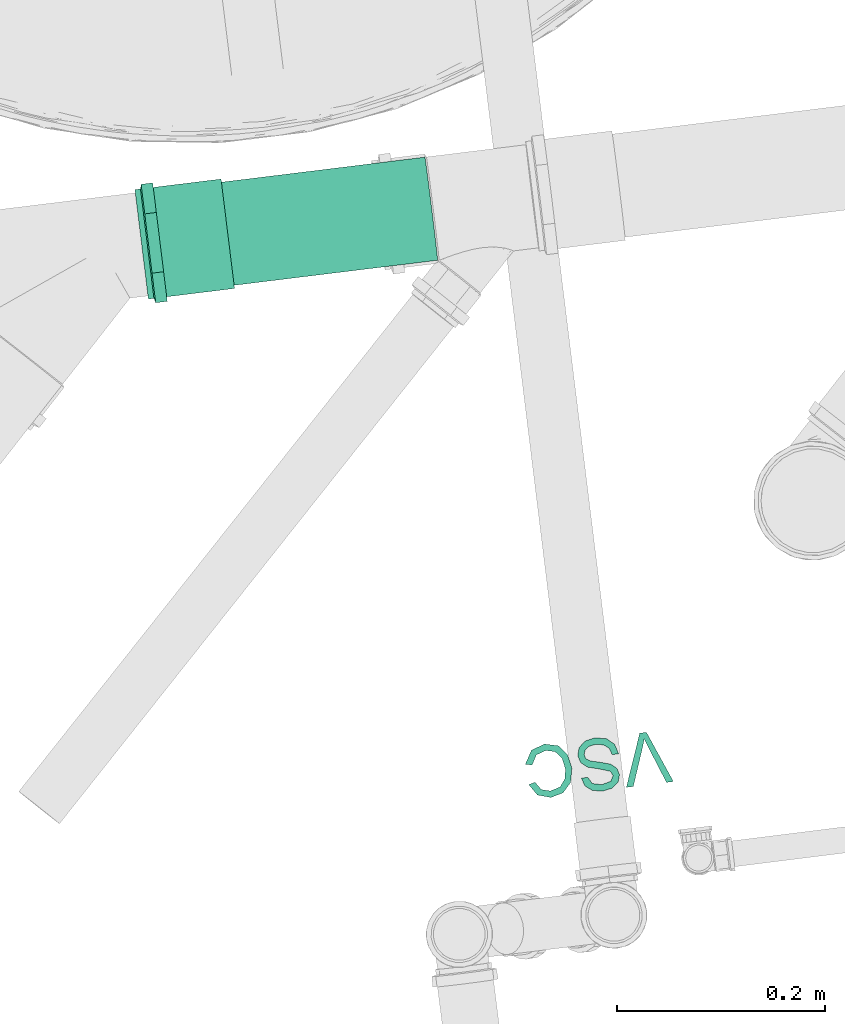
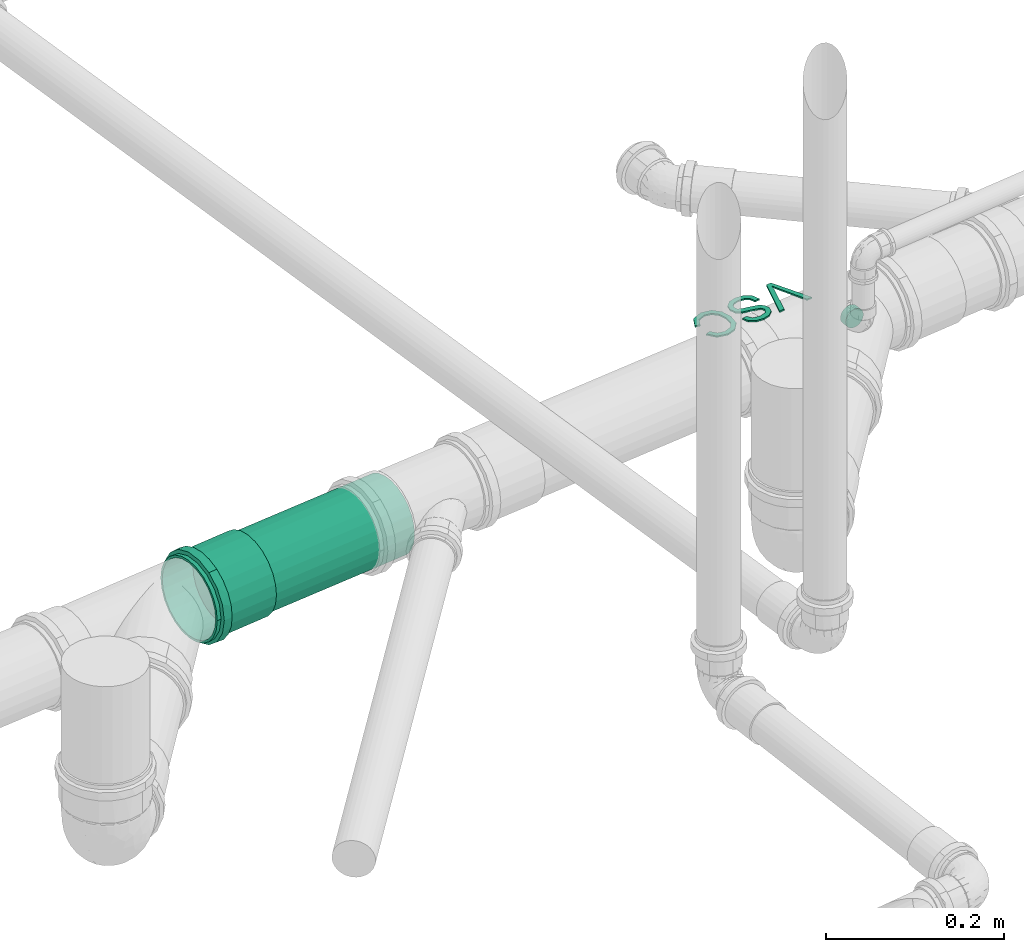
# One storey, part 20 of 97: 1 flow fitting, 1 flow segment, 1 flow terminal.
"""IFC2X3 building model written with IfcOpenShell, lengths in centimetres."""

from ifc_helpers import new_model, entity, si_unit, converted_unit, derived_unit, direction, frame, frame_2d, origin, place, context, subcontext, project, spatial, polyline, circle, outline, extrude, faceted_brep, source, transform, mapped, material, material_list, type_object, type_shapes, element, save


model = new_model("IFC2X3")

# Units and contexts
model_context = context("Model", 3, precision=0.001, world=origin(), true_north=direction((6.12303176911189e-17, 1.0)))
body_context = subcontext(model_context, "Body", "Model", "MODEL_VIEW")
ifc_project = project(units=[si_unit("LENGTHUNIT", "METRE", prefix="CENTI"), si_unit("AREAUNIT", "SQUARE_METRE"), si_unit("VOLUMEUNIT", "CUBIC_METRE"), converted_unit("PLANEANGLEUNIT", "DEGREE", entity("IfcRatioMeasure", 0.0174532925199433), si_unit("PLANEANGLEUNIT", "RADIAN"), dimensions=[0, 0, 0, 0, 0, 0, 0]), si_unit("MASSUNIT", "GRAM", prefix="KILO"), derived_unit("MASSDENSITYUNIT", [(si_unit("MASSUNIT", "GRAM", prefix="KILO"), 1), (si_unit("LENGTHUNIT", "METRE"), -3)]), derived_unit("MOMENTOFINERTIAUNIT", [(si_unit("LENGTHUNIT", "METRE"), 4)]), si_unit("TIMEUNIT", "SECOND"), si_unit("FREQUENCYUNIT", "HERTZ"), si_unit("THERMODYNAMICTEMPERATUREUNIT", "DEGREE_CELSIUS"), derived_unit("THERMALTRANSMITTANCEUNIT", [(si_unit("MASSUNIT", "GRAM", prefix="KILO"), 1), (si_unit("THERMODYNAMICTEMPERATUREUNIT", "KELVIN"), -1), (si_unit("TIMEUNIT", "SECOND"), -3)]), derived_unit("VOLUMETRICFLOWRATEUNIT", [(si_unit("LENGTHUNIT", "METRE"), 3), (si_unit("TIMEUNIT", "SECOND"), -1)]), si_unit("ELECTRICCURRENTUNIT", "AMPERE"), si_unit("ELECTRICVOLTAGEUNIT", "VOLT"), si_unit("POWERUNIT", "WATT"), si_unit("FORCEUNIT", "NEWTON", prefix="KILO"), si_unit("ILLUMINANCEUNIT", "LUX"), si_unit("LUMINOUSFLUXUNIT", "LUMEN"), si_unit("LUMINOUSINTENSITYUNIT", "CANDELA"), derived_unit("USERDEFINED", [(si_unit("MASSUNIT", "GRAM", prefix="KILO"), -1), (si_unit("LENGTHUNIT", "METRE"), -2), (si_unit("TIMEUNIT", "SECOND"), 3), (si_unit("LUMINOUSFLUXUNIT", "LUMEN"), 1)]), derived_unit("LINEARVELOCITYUNIT", [(si_unit("LENGTHUNIT", "METRE"), 1), (si_unit("TIMEUNIT", "SECOND"), -1)]), si_unit("PRESSUREUNIT", "PASCAL"), derived_unit("USERDEFINED", [(si_unit("LENGTHUNIT", "METRE"), -2), (si_unit("MASSUNIT", "GRAM", prefix="KILO"), 1), (si_unit("TIMEUNIT", "SECOND"), -2)]), derived_unit("LINEARFORCEUNIT", [(si_unit("MASSUNIT", "GRAM", prefix="KILO"), 1), (si_unit("LENGTHUNIT", "METRE"), 1), (si_unit("TIMEUNIT", "SECOND"), -2), (si_unit("LENGTHUNIT", "METRE"), -1)]), derived_unit("PLANARFORCEUNIT", [(si_unit("MASSUNIT", "GRAM", prefix="KILO"), 1), (si_unit("LENGTHUNIT", "METRE"), 1), (si_unit("TIMEUNIT", "SECOND"), -2), (si_unit("LENGTHUNIT", "METRE"), -2)])], contexts=[model_context])

# Site, building, storey
site_placement = place(None, origin())
site = spatial("IfcSite", under=ifc_project, at=site_placement, Name="Default", CompositionType="ELEMENT")
building_placement = place(site_placement, origin())
building = spatial("IfcBuilding", under=site, at=building_placement, Name="HIDROSSANITÁRIO", CompositionType="ELEMENT")
storey_placement = place(building_placement, frame((0.0, 0.0, -260.0)))
storey = spatial("IfcBuildingStorey", under=building, at=storey_placement, Name="TÉRREO-HID", CompositionType="ELEMENT", Elevation=-260.0)

# Flow segment
pipe_segment_type = type_object("IfcPipeSegmentType", Name="Tipos de tubos:Tubo - Esgoto - Série Normal", PredefinedType="NOTDEFINED")
flow_segment_placement = place(storey_placement, origin())
element("IfcFlowSegment", 1, at=flow_segment_placement, inside=storey, type_object=pipe_segment_type, Name="Tipos de tubos:Tubo - Esgoto - Série Normal", ObjectType="Tipos de tubos:Tubo - Esgoto - Série Normal", context=body_context, shape_type="SweptSolid", body=[
    extrude(circle(Radius=5.0, at=frame_2d((-2.64549693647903e-14, -1.8606547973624e-15), x_axis=(1.0, 0.0))), frame((-1631.92510677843, 2970.05791379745, -34.9773285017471), z_axis=(-0.992474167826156, -0.122147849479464, 0.00865615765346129), x_axis=(-0.122152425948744, 0.992511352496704, 0.0)), (0.0, 0.0, 1.0), 23.7615780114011),
])

# Flow fitting
ifc_material_1 = material(Name="PVC Branco")
pipe_fitting_type = type_object("IfcPipeFittingType", Name="Luva Simples para Conexão - Serie Normal - Esgoto - MEP - Tigre:Standard", PredefinedType="NOTDEFINED", material=ifc_material_1)
shared_shape_1 = source(origin(), body_context, "Body", "Brep", [
    faceted_brep([(1.77700000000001, 2.8725, -4.9753159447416), (1.77700000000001, 4.06232845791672, -4.06232845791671), (1.77700000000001, 2.65249999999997, -4.59426476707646), (1.77700000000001, 1.37303503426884, -5.12423650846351), (1.77700000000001, 1.48691541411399, -5.5492438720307), (1.77700000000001, 3.75120147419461, -3.75120147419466), (1.77700000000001, 4.9753159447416, -2.8725), (1.77700000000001, 4.59426476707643, -2.65250000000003), (1.77700000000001, 5.1242365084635, -1.37303503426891), (1.77700000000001, 5.5492438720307, -1.48691541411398), (1.77700000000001, 5.305, 0.0), (1.77700000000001, 5.745, 0.0), (1.77700000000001, 5.1242365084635, 1.3730350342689), (1.77700000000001, 5.54924387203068, 1.48691541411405), (1.77700000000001, 4.59426476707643, 2.65250000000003), (1.77700000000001, 4.97531594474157, 2.87250000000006), (1.77700000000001, 3.75120147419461, 3.75120147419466), (1.77700000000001, 4.06232845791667, 4.06232845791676), (1.77700000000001, 2.65249999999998, 4.59426476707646), (1.77700000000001, 2.87249999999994, 4.97531594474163), (1.77700000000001, 1.37303503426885, 5.12423650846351), (1.77700000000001, 1.48691541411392, 5.54924387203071), (1.77700000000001, 0.0, 5.305), (1.77700000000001, 0.0, 5.745), (1.77700000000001, -1.37303503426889, 5.1242365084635), (1.77700000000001, -1.48691541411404, 5.54924387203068), (1.77700000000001, -2.65250000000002, 4.59426476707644), (1.77700000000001, -2.87250000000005, 4.97531594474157), (1.77700000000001, -3.75120147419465, 3.75120147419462), (1.77700000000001, -4.06232845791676, 4.06232845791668), (1.77700000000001, -4.59426476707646, 2.65249999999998), (1.77700000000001, -4.97531594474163, 2.87249999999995), (1.77700000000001, -5.54924387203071, 1.48691541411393), (1.77700000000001, -5.12423650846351, 1.37303503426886), (1.77700000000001, -5.745, 0.0), (1.77700000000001, -5.305, 0.0), (1.77700000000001, -5.54924387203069, -1.486915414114), (1.77700000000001, -5.12423650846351, -1.37303503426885), (1.77700000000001, -4.97531594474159, -2.87250000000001), (1.77700000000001, -4.59426476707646, -2.65249999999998), (1.77700000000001, -4.06232845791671, -4.06232845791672), (1.77700000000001, -3.75120147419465, -3.75120147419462), (1.77700000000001, -2.87249999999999, -4.97531594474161), (1.77700000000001, -2.65250000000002, -4.59426476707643), (1.77700000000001, -1.48691541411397, -5.5492438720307), (1.77700000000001, -1.3730350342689, -5.1242365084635), (1.77700000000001, 0.0, -5.745), (1.77700000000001, 0.0, -5.305), (0.657000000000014, -1.93463887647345, 5.31665771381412), (0.657000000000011, -4.4007619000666, 3.69300957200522), (0.657000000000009, -4.89962626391, 2.82901737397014), (0.657000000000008, -5.39849062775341, 1.96502517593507), (0.657000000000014, -2.87216972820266, 4.97550661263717), (0.657000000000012, -3.63646581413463, 4.3342580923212), (0.657000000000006, -5.5717453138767, 0.982512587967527), (0.657000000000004, -5.745, 0.0), (0.657000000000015, -0.997108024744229, 5.65780881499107), (0.657000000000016, 0.998234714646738, 5.65761013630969), (0.657000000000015, 0.0005633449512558, 5.65770947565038), (0.657000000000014, 3.63732887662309, 4.33353383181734), (0.657000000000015, 1.93569761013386, 5.31627233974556), (0.657000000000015, 2.87316050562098, 4.97493454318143), (0.65700000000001, 5.39888184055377, 1.96395006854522), (0.657000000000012, 4.90018954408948, 2.82804159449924), (0.657000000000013, 4.40149724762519, 3.69213312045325), (0.657000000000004, 5.745, 0.0), (0.656999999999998, 4.40149724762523, -3.6921331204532), (0.657, 4.90018954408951, -2.82804159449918), (0.657000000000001, 5.39888184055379, -1.96395006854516), (0.656999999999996, 2.87316050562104, -4.9749345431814), (0.656999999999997, 3.63732887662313, -4.3335338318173), (0.656999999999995, 1.93569761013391, -5.31627233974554), (0.656999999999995, 0.998234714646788, -5.65761013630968), (0.656999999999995, -0.997108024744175, -5.65780881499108), (0.656999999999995, 0.000563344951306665, -5.65770947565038), (0.656999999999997, -3.6364658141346, -4.33425809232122), (0.656999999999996, -2.87216972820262, -4.9755066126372), (0.656999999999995, -1.9346388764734, -5.31665771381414), (0.657000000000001, -5.39849062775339, -1.96502517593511), (0.657, -4.89962626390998, -2.82901737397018), (0.656999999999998, -4.40076190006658, -3.69300957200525), (0.657000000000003, -5.5717453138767, -0.982512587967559), (8.35200000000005, 2.6525, -4.59426476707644), (8.35200000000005, 3.75120147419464, -3.75120147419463), (8.35200000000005, 2.49999999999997, -4.33012701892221), (8.35200000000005, 1.29409522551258, -4.82962913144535), (8.35200000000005, 1.37303503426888, -5.1242365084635), (8.35200000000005, 3.53553390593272, -3.53553390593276), (8.35200000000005, 4.59426476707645, -2.6525), (8.35200000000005, 4.33012701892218, -2.50000000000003), (8.35200000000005, 4.82962913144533, -1.29409522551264), (8.35200000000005, 5.12423650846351, -1.37303503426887), (8.35200000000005, 5.0, 0.0), (8.35200000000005, 5.305, 0.0), (8.35200000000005, 4.82962913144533, 1.29409522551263), (8.35200000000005, 5.12423650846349, 1.37303503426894), (8.35200000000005, 4.33012701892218, 2.50000000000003), (8.35200000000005, 4.59426476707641, 2.65250000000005), (8.35200000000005, 3.53553390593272, 3.53553390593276), (8.35200000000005, 3.75120147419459, 3.75120147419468), (8.35200000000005, 2.49999999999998, 4.33012701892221), (8.35200000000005, 2.65249999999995, 4.59426476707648), (8.35200000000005, 1.29409522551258, 4.82962913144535), (8.35200000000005, 1.37303503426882, 5.12423650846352), (8.35200000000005, 0.0, 5.0), (8.35200000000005, 0.0, 5.305), (8.35200000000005, -1.29409522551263, 4.82962913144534), (8.35200000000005, -1.37303503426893, 5.12423650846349), (8.35200000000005, -2.50000000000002, 4.33012701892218), (8.35200000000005, -2.65250000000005, 4.59426476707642), (8.35200000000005, -3.53553390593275, 3.53553390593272), (8.35200000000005, -3.75120147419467, 3.7512014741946), (8.35200000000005, -4.3301270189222, 2.49999999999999), (8.35200000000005, -4.59426476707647, 2.65249999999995), (8.35200000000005, -5.12423650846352, 1.37303503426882), (8.35200000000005, -4.82962913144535, 1.29409522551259), (8.35200000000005, -5.305, 0.0), (8.35200000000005, -5.0, 0.0), (8.35200000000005, -5.1242365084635, -1.37303503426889), (8.35200000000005, -4.82962913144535, -1.29409522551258), (8.35200000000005, -4.59426476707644, -2.65250000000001), (8.35200000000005, -4.3301270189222, -2.49999999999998), (8.35200000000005, -3.75120147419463, -3.75120147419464), (8.35200000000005, -3.53553390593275, -3.53553390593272), (8.35200000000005, -2.65249999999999, -4.59426476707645), (8.35200000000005, -2.50000000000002, -4.33012701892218), (8.35200000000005, -1.37303503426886, -5.12423650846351), (8.35200000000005, -1.29409522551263, -4.82962913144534), (8.35200000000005, 0.0, -5.305), (8.35200000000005, 0.0, -5.0), (0.0, 2.49999999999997, -4.33012701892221), (0.0, 3.75120147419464, -3.75120147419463), (0.0, 2.6525, -4.59426476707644), (0.0, 1.29409522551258, -4.82962913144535), (0.0, 3.53553390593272, -3.53553390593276), (0.0, 4.59426476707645, -2.6525), (0.0, 4.33012701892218, -2.50000000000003), (0.0, 4.82962913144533, -1.29409522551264), (0.0, 5.12423650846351, -1.37303503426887), (0.0, 5.0, 0.0), (0.0, 5.305, 0.0), (0.0, 4.82962913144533, 1.29409522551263), (0.0, 5.12423650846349, 1.37303503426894), (0.0, 4.33012701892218, 2.50000000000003), (0.0, 4.59426476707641, 2.65250000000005), (0.0, 3.53553390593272, 3.53553390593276), (0.0, 3.75120147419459, 3.75120147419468), (0.0, 2.49999999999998, 4.33012701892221), (0.0, 2.65249999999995, 4.59426476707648), (0.0, 1.29409522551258, 4.82962913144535), (0.0, 1.37303503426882, 5.12423650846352), (0.0, 0.0, 5.0), (0.0, 0.0, 5.305), (0.0, -1.29409522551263, 4.82962913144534), (0.0, -1.37303503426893, 5.12423650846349), (0.0, -2.50000000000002, 4.33012701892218), (0.0, -2.65250000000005, 4.59426476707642), (0.0, -3.53553390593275, 3.53553390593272), (0.0, -3.75120147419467, 3.7512014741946), (0.0, -4.3301270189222, 2.49999999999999), (0.0, -4.59426476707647, 2.65249999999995), (0.0, -5.12423650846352, 1.37303503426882), (0.0, -4.82962913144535, 1.29409522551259), (0.0, -5.305, 0.0), (0.0, -5.0, 0.0), (0.0, -5.1242365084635, -1.37303503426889), (0.0, -4.82962913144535, -1.29409522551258), (0.0, -4.59426476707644, -2.65250000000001), (0.0, -4.3301270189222, -2.49999999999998), (0.0, -3.75120147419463, -3.75120147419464), (0.0, -3.53553390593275, -3.53553390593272), (0.0, -2.65249999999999, -4.59426476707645), (0.0, -2.50000000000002, -4.33012701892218), (0.0, -1.37303503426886, -5.12423650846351), (0.0, -1.29409522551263, -4.82962913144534), (0.0, 0.0, -5.305), (0.0, 0.0, -5.0), (0.0, 1.37303503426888, -5.1242365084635), (0.537000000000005, -5.305, 0.0), (0.537000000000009, -4.98507989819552, 1.81438788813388), (0.537000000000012, -4.06390540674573, 3.4099410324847), (0.537000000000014, -2.65258010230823, 4.59421851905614), (0.537000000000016, -0.921325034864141, 5.22438371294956), (0.537000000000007, 5.1449924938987, 0.907324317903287), (0.537000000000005, 5.305, 0.0), (0.537000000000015, 2.65233979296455, 4.59435725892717), (0.537000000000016, 0.921051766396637, 5.22443189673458), (0.537000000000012, 4.06372704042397, 3.41015359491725), (0.537000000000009, 4.9849849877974, 1.81464863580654), (0.537000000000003, 5.14499249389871, -0.907324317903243), (0.537000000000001, 4.98498498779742, -1.81464863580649), (0.536999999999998, 4.063727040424, -3.41015359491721), (0.536999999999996, 2.6523397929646, -4.59435725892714), (0.536999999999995, 0.921051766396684, -5.22443189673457), (0.536999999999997, -2.6525801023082, -4.59421851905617), (0.536999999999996, -0.921325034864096, -5.22438371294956), (0.536999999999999, -4.0639054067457, -3.40994103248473), (0.537000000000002, -4.98507989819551, -1.81438788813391), (5.0, -5.0, 0.0), (5.0, 5.0, 0.0)], [[[0, 1, 2]], [[0, 2, 3]], [[3, 4, 0]], [[2, 1, 5]], [[6, 5, 1]], [[5, 6, 7]], [[7, 6, 8]], [[9, 8, 6]], [[9, 10, 8]], [[10, 9, 11]], [[12, 10, 11]], [[11, 13, 12]], [[12, 13, 14]], [[15, 14, 13]], [[14, 15, 16]], [[16, 15, 17]], [[18, 16, 17]], [[17, 19, 18]], [[18, 19, 20]], [[21, 20, 19]], [[20, 21, 22]], [[22, 21, 23]], [[22, 23, 24]], [[24, 23, 25]], [[24, 25, 26]], [[27, 26, 25]], [[27, 28, 26]], [[28, 27, 29]], [[29, 30, 28]], [[31, 30, 29]], [[30, 31, 32]], [[32, 33, 30]], [[34, 33, 32]], [[34, 35, 33]], [[36, 35, 34]], [[36, 37, 35]], [[37, 36, 38]], [[38, 39, 37]], [[39, 38, 40]], [[39, 40, 41]], [[40, 42, 41]], [[41, 42, 43]], [[43, 42, 44]], [[44, 45, 43]], [[46, 45, 44]], [[4, 47, 46]], [[46, 47, 45]], [[4, 3, 47]], [[48, 27, 25]], [[31, 29, 49]], [[31, 49, 50, 51]], [[52, 53, 27]], [[32, 51, 54]], [[54, 55, 34]], [[54, 34, 32]], [[25, 56, 48]], [[49, 29, 53]], [[23, 57, 58, 56]], [[59, 19, 17]], [[27, 53, 29]], [[48, 52, 27]], [[31, 51, 32]], [[57, 23, 21]], [[60, 19, 61]], [[15, 62, 63, 64]], [[19, 60, 21]], [[15, 13, 62]], [[17, 64, 59]], [[57, 21, 60]], [[23, 56, 25]], [[15, 64, 17]], [[13, 65, 62]], [[13, 11, 65]], [[59, 61, 19]], [[65, 11, 9]], [[6, 1, 66]], [[6, 66, 67, 68]], [[69, 70, 0]], [[68, 65, 9]], [[71, 69, 0]], [[71, 0, 4]], [[4, 72, 71]], [[66, 1, 70]], [[46, 73, 74, 72]], [[75, 76, 42]], [[0, 70, 1]], [[75, 42, 40]], [[6, 68, 9]], [[73, 46, 44]], [[77, 42, 76]], [[38, 78, 79, 80]], [[42, 77, 44]], [[38, 36, 78]], [[40, 80, 75]], [[73, 44, 77]], [[46, 72, 4]], [[38, 80, 40]], [[81, 78, 36]], [[55, 81, 34]], [[34, 81, 36]], [[82, 83, 84]], [[82, 84, 85]], [[85, 86, 82]], [[84, 83, 87]], [[88, 87, 83]], [[87, 88, 89]], [[89, 88, 90]], [[91, 90, 88]], [[91, 92, 90]], [[92, 91, 93]], [[94, 92, 93]], [[93, 95, 94]], [[94, 95, 96]], [[97, 96, 95]], [[96, 97, 98]], [[98, 97, 99]], [[100, 98, 99]], [[99, 101, 100]], [[100, 101, 102]], [[103, 102, 101]], [[102, 103, 104]], [[104, 103, 105]], [[104, 105, 106]], [[106, 105, 107]], [[106, 107, 108]], [[109, 108, 107]], [[110, 108, 109]], [[110, 109, 111]], [[111, 112, 110]], [[113, 112, 111]], [[112, 113, 114]], [[114, 115, 112]], [[116, 115, 114]], [[116, 117, 115]], [[118, 117, 116]], [[118, 119, 117]], [[119, 118, 120]], [[120, 121, 119]], [[121, 120, 122]], [[121, 122, 123]], [[122, 124, 123]], [[125, 123, 124]], [[125, 124, 126]], [[126, 127, 125]], [[128, 127, 126]], [[86, 129, 128]], [[128, 129, 127]], [[86, 85, 129]], [[130, 131, 132]], [[133, 130, 132]], [[134, 131, 130]], [[131, 134, 135]], [[136, 135, 134]], [[137, 135, 136]], [[135, 137, 138]], [[137, 139, 138]], [[140, 138, 139]], [[140, 139, 141]], [[141, 142, 140]], [[143, 142, 141]], [[142, 143, 144]], [[145, 144, 143]], [[146, 144, 145]], [[146, 145, 147]], [[147, 148, 146]], [[149, 148, 147]], [[148, 149, 150]], [[151, 150, 149]], [[152, 150, 151]], [[153, 152, 151]], [[154, 152, 153]], [[155, 154, 153]], [[154, 155, 156]], [[156, 155, 157]], [[158, 156, 157]], [[157, 159, 158]], [[158, 159, 160]], [[161, 160, 159]], [[159, 162, 161]], [[161, 162, 163]], [[162, 164, 163]], [[163, 164, 165]], [[164, 166, 165]], [[167, 165, 166]], [[166, 168, 167]], [[169, 167, 168]], [[170, 169, 168]], [[170, 171, 169]], [[171, 170, 172]], [[173, 171, 172]], [[172, 174, 173]], [[173, 174, 175]], [[174, 176, 175]], [[176, 133, 177]], [[175, 176, 177]], [[132, 177, 133]], [[161, 178, 179]], [[158, 180, 181]], [[179, 180, 160]], [[181, 182, 154]], [[179, 160, 161]], [[161, 163, 178]], [[35, 116, 114, 33]], [[183, 184, 140]], [[181, 156, 158]], [[158, 160, 180]], [[181, 154, 156]], [[182, 152, 154]], [[183, 140, 142]], [[185, 150, 186]], [[187, 146, 185]], [[142, 188, 183]], [[187, 188, 144]], [[185, 148, 150]], [[150, 152, 186]], [[187, 144, 146]], [[146, 148, 185]], [[188, 142, 144]], [[186, 152, 182]], [[189, 190, 138]], [[131, 191, 192]], [[190, 191, 135]], [[192, 193, 177]], [[190, 135, 138]], [[184, 189, 140]], [[192, 132, 131]], [[131, 135, 191]], [[192, 177, 132]], [[193, 175, 177]], [[140, 189, 138]], [[194, 173, 195]], [[196, 169, 194]], [[165, 197, 178]], [[196, 197, 167]], [[165, 178, 163]], [[35, 37, 118, 116]], [[194, 171, 173]], [[173, 175, 195]], [[196, 167, 169]], [[169, 171, 194]], [[197, 165, 167]], [[195, 175, 193]], [[115, 117, 198, 164, 162]], [[155, 108, 110, 157]], [[110, 112, 159, 157]], [[112, 115, 162, 159]], [[106, 108, 155, 153]], [[153, 151, 104, 106]], [[102, 104, 151, 149]], [[102, 149, 147, 100]], [[141, 94, 96, 143]], [[96, 98, 145, 143]], [[98, 100, 147, 145]], [[92, 94, 141, 139, 199]], [[199, 139, 137, 90, 92]], [[87, 89, 136, 134]], [[134, 130, 84, 87]], [[89, 90, 137, 136]], [[85, 84, 130, 133]], [[133, 176, 129, 85]], [[127, 129, 176, 174]], [[127, 174, 172, 125]], [[166, 119, 121, 168]], [[121, 123, 170, 168]], [[123, 125, 172, 170]], [[117, 119, 166, 164, 198]], [[81, 178, 197]], [[190, 68, 67]], [[194, 75, 196]], [[193, 72, 74]], [[195, 77, 194]], [[79, 197, 196]], [[81, 55, 178]], [[192, 69, 71]], [[79, 78, 197]], [[194, 77, 76]], [[191, 66, 70]], [[80, 196, 75]], [[68, 190, 189]], [[74, 195, 193]], [[192, 71, 193]], [[190, 67, 191]], [[70, 192, 191]], [[65, 189, 184]], [[195, 73, 77]], [[193, 71, 72]], [[197, 78, 81]], [[191, 67, 66]], [[189, 65, 68]], [[196, 80, 79]], [[70, 69, 192]], [[194, 76, 75]], [[73, 195, 74]], [[65, 183, 62]], [[48, 56, 182]], [[58, 182, 56]], [[54, 51, 179]], [[59, 185, 61]], [[60, 186, 57]], [[53, 52, 181]], [[63, 187, 64]], [[58, 57, 186]], [[187, 63, 188]], [[186, 60, 185]], [[50, 49, 180]], [[185, 59, 187]], [[59, 64, 187]], [[182, 58, 186]], [[50, 179, 51]], [[54, 178, 55]], [[53, 180, 49]], [[63, 62, 188]], [[181, 48, 182]], [[183, 65, 184]], [[179, 50, 180]], [[178, 54, 179]], [[183, 188, 62]], [[180, 53, 181]], [[60, 61, 185]], [[48, 181, 52]], [[30, 33, 114, 113]], [[26, 28, 111, 109]], [[113, 111, 28, 30]], [[107, 24, 26, 109]], [[107, 105, 22, 24]], [[18, 20, 103, 101]], [[99, 16, 18, 101]], [[12, 14, 97, 95]], [[99, 97, 14, 16]], [[10, 12, 95, 93]], [[103, 20, 22, 105]], [[91, 8, 10, 93]], [[88, 7, 8, 91]], [[82, 86, 3, 2]], [[83, 5, 7, 88]], [[2, 5, 83, 82]], [[86, 128, 47, 3]], [[43, 45, 126, 124]], [[122, 41, 43, 124]], [[37, 39, 120, 118]], [[122, 120, 39, 41]], [[126, 45, 47, 128]]]),
])
type_shapes(pipe_fitting_type, [shared_shape_1])
flow_fitting_placement = place(storey_placement, frame((-1659.79650069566, 2966.6276675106, -34.7716445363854), z_axis=(0.0, 0.0, -1.0), x_axis=(0.992511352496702, 0.12215242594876, 0.0)))
element("IfcFlowFitting", 2, at=flow_fitting_placement, inside=storey, type_object=pipe_fitting_type, material=ifc_material_1, Name="Luva Simples para Conexão - Serie Normal - Esgoto - MEP - Tigre:Standard", ObjectType="Luva Simples para Conexão - Serie Normal - Esgoto - MEP - Tigre:Standard", context=body_context, shape_type="MappedRepresentation", body=[
    mapped(shared_shape_1, transform((0.0, 0.0, 0.0), scale=1.0)),
])

# Flow terminal
ifc_material_2 = material(Name=".ID PONTOS DE CONSUMO")
ifc_material_3 = material(Name="<Unnamed>")
ifc_material_list_1 = material_list([ifc_material_2, ifc_material_3])
ifc_material_list_2 = material_list([ifc_material_2, ifc_material_2, ifc_material_2, ifc_material_3])
distribution_element_type = type_object("IfcDistributionElementType", Name="Pontos de Consumo :BACIA SANITARIA CAIXA ACOPLADA", material=ifc_material_list_2)
shared_shape_2 = source(origin(), body_context, "Body", "SweptSolid", [
    extrude(outline(polyline([(-0.291035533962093, -2.60978212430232), (0.357663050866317, -2.60978212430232), (2.27187569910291, 2.41303338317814), (1.59987792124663, 2.41303338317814), (0.258334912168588, -1.20569917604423), (-0.00899267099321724, -2.02117093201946), (-0.279999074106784, -1.20569917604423), (-1.61786326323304, 2.41303338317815), (-2.28986104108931, 2.41303338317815), (-0.291035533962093, -2.60978212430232)])), frame((-3.80140883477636, 8.38581599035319, 0.0), z_axis=(0.0, 0.0, 1.0), x_axis=(-1.0, 0.0, 0.0)), (0.0, 0.0, 1.0), 0.2),
    extrude(outline(polyline([(0.159986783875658, -2.14384430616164), (1.15649137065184, -2.14384430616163), (1.96068557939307, -1.63393256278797), (2.46863484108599, -0.612133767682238), (2.53870698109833, 0.35501055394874), (2.18730732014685, 1.12715089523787), (1.52572011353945, 1.54795570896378), (0.789276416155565, 1.5528298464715), (0.13430777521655, 1.10651277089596), (-0.471111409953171, 0.123091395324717), (-1.0874076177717, -0.768054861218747), (-1.56068636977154, -0.842013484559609), (-1.9855059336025, -0.428866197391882), (-1.94874467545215, 0.494808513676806), (-1.4949111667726, 1.29806637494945), (-0.777489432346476, 1.46486449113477), (-0.606740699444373, 2.06905231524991), (-1.430854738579, 2.04327069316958), (-2.11718460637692, 1.54911010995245), (-2.55960237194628, 0.64195615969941), (-2.6481064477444, -0.300227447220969), (-2.33838066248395, -1.04848451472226), (-1.71373428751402, -1.45120371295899), (-1.06523029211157, -1.45161416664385), (-0.470393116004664, -1.06476156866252), (0.0951992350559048, -0.201975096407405), (0.574519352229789, 0.612557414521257), (0.964937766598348, 0.945679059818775), (1.37031208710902, 0.9394324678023), (1.73780922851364, 0.690941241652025), (1.92586114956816, 0.197524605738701), (1.85777714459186, -0.464986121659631), (1.50727535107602, -1.14835302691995), (0.990539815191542, -1.51586299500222), (0.330735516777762, -1.5396564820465), (0.159986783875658, -2.14384430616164)])), frame((-8.44107816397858, 8.53201502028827, 0.0), z_axis=(0.0, 0.0, 1.0), x_axis=(-0.271957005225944, 0.9623094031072, 0.0)), (0.0, 0.0, 1.0), 0.2),
    extrude(outline(polyline([(-0.163864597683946, -1.7964904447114), (-0.337097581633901, -2.4213021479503), (1.13156474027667, -2.40853999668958), (2.16562908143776, -1.48721709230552), (2.53219172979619, -0.190439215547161), (2.08718308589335, 0.950570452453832), (1.05509329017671, 1.8489065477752), (-0.275927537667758, 2.27270776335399), (-1.46466906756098, 1.98187536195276), (-2.32904298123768, 1.08731397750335), (-2.61799066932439, -0.197577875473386), (-2.01807585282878, -1.36204183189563), (-1.57497165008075, -0.892746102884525), (-1.98665363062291, -0.0610798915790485), (-1.77280525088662, 0.795082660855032), (-1.04969465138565, 1.51204662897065), (-0.147902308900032, 1.63280778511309), (0.740549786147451, 1.30552643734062), (1.58306630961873, 0.601352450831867), (1.88727594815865, -0.254715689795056), (1.65286235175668, -1.11954933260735), (0.903279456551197, -1.7964904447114), (-0.163864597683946, -1.7964904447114)])), frame((-13.1807089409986, 8.45514997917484, 0.0), z_axis=(0.0, 0.0, -1.0), x_axis=(0.499291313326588, 0.866434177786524, 0.0)), (0.0, 0.0, -1.0), 0.2),
    extrude(circle(Radius=1.25, at=frame_2d((-6.58881963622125e-17, -2.01943071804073e-15), x_axis=(1.0, 0.0))), frame((0.0, 0.0, 0.0), z_axis=(0.0, 1.0, 0.0), x_axis=(1.0, 0.0, 0.0)), (0.0, 0.0, 1.0), 1.0),
])
type_shapes(distribution_element_type, [shared_shape_2])
flow_terminal_placement = place(storey_placement, frame((-1606.39061313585, 2909.18190733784, 20.0), z_axis=(0.0, 0.0, 1.0), x_axis=(0.992511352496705, 0.122152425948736, 0.0)))
element("IfcFlowTerminal", 3, at=flow_terminal_placement, inside=storey, type_object=distribution_element_type, material=ifc_material_list_1, Name="Pontos de Consumo :BACIA SANITARIA CAIXA ACOPLADA", ObjectType="Pontos de Consumo :BACIA SANITARIA CAIXA ACOPLADA", context=body_context, shape_type="MappedRepresentation", body=[
    mapped(shared_shape_2, transform((0.0, 0.0, 0.0), scale=1.0)),
])

save(model, "model.ifc")
